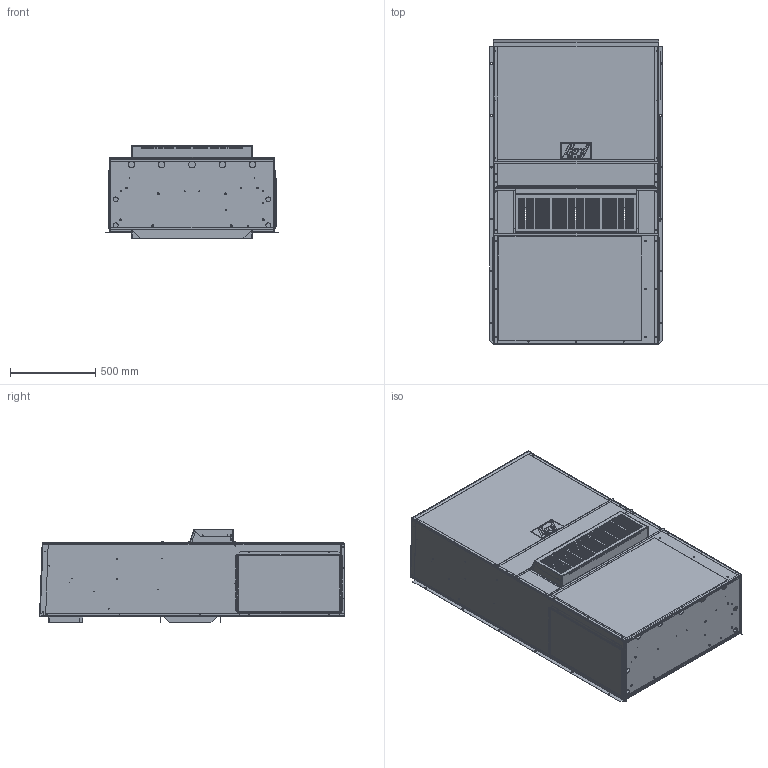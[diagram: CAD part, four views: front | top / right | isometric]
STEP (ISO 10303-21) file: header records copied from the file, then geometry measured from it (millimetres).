
FILE_DESCRIPTION (( 'STEP AP203' ), '1' );
FILE_NAME ('STEP_400_3.STEP', '2016-06-16T16:49:48', ( '' ), ( '' ), 'SwSTEP 2.0', 'SolidWorks 2016', '' );
FILE_SCHEMA (( 'CONFIG_CONTROL_DESIGN' ));
Products named in the file (1): STEP_400_3
Bounding box: 1015.56 x 1792.28 x 545.45 mm (x, y, z)
Volume: 6411704.1 mm3; surface area: 13373303.9 mm2
Topology: 26 solids, 26 shells, 3194 faces, 8725 edges, 5663 vertices
Faces by surface type: plane 1403, cylinder 1022, bspline 769
Entity records: 125272 total; most frequent: CARTESIAN_POINT 45056, ORIENTED_EDGE 17450, DIRECTION 15695, EDGE_CURVE 8725, VERTEX_POINT 5663, AXIS2_PLACEMENT_3D 5410, LINE 4875, VECTOR 4875
